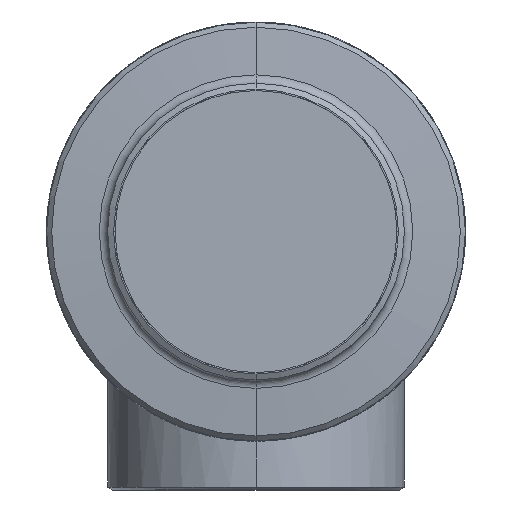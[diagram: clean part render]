
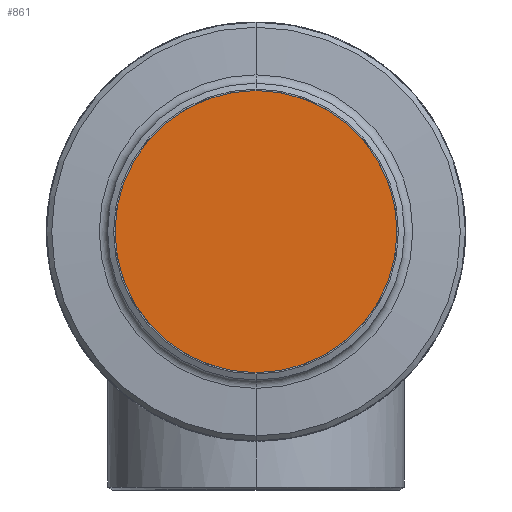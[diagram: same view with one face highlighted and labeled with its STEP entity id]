
A CAD part, front view. The second image highlights one B-rep face of the part: STEP entity #861.
In plain terms, the highlighted planar face has unit normal (0, -1, 0).
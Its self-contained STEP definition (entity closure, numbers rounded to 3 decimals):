
#1 = ORIENTED_EDGE ( 'NONE', *, *, #2177, .T. ) ;
#635 = EDGE_LOOP ( 'NONE', ( #1, #5953 ) ) ;
#861 = ADVANCED_FACE ( 'NONE', ( #4319 ), #4320, .T. ) ;
#1053 = CIRCLE ( 'NONE', #1054, 169. ) ;
#1054 = AXIS2_PLACEMENT_3D ( 'NONE', #1055, #1056, #1057 ) ;
#1055 = CARTESIAN_POINT ( 'NONE',  ( 0., -58., 0. ) ) ;
#1056 = DIRECTION ( 'NONE',  ( 0., -1., 0. ) ) ;
#1057 = DIRECTION ( 'NONE',  ( 0., 0., -1. ) ) ;
#2002 = CARTESIAN_POINT ( 'NONE',  ( 0., -58., -169. ) ) ;
#2177 = EDGE_CURVE ( 'NONE', #2923, #3189, #6153, .T. ) ;
#2923 = VERTEX_POINT ( 'NONE', #4448 ) ;
#3110 = EDGE_CURVE ( 'NONE', #3189, #2923, #1053, .T. ) ;
#3189 = VERTEX_POINT ( 'NONE', #2002 ) ;
#4319 = FACE_OUTER_BOUND ( 'NONE', #635, .T. ) ;
#4320 = PLANE ( 'NONE',  #4321 ) ;
#4321 = AXIS2_PLACEMENT_3D ( 'NONE', #4322, #4323, #4324 ) ;
#4322 = CARTESIAN_POINT ( 'NONE',  ( 0., -58., 0. ) ) ;
#4323 = DIRECTION ( 'NONE',  ( 0., -1., 0. ) ) ;
#4324 = DIRECTION ( 'NONE',  ( 0., 0., -1. ) ) ;
#4448 = CARTESIAN_POINT ( 'NONE',  ( 0., -58., 169. ) ) ;
#5953 = ORIENTED_EDGE ( 'NONE', *, *, #3110, .T. ) ;
#6153 = CIRCLE ( 'NONE', #6154, 169. ) ;
#6154 = AXIS2_PLACEMENT_3D ( 'NONE', #6155, #6156, #6157 ) ;
#6155 = CARTESIAN_POINT ( 'NONE',  ( 0., -58., 0. ) ) ;
#6156 = DIRECTION ( 'NONE',  ( 0., -1., 0. ) ) ;
#6157 = DIRECTION ( 'NONE',  ( 0., 0., -1. ) ) ;
